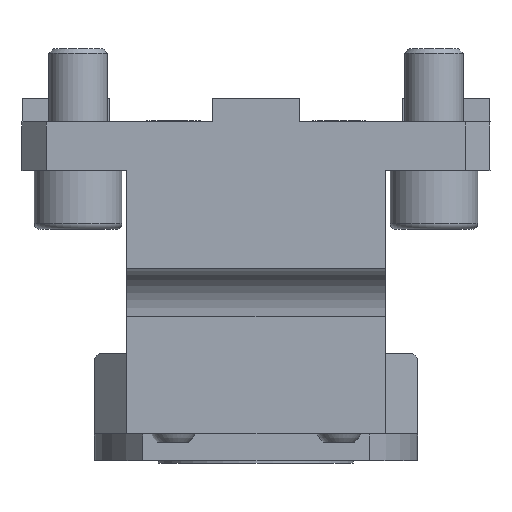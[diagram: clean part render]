
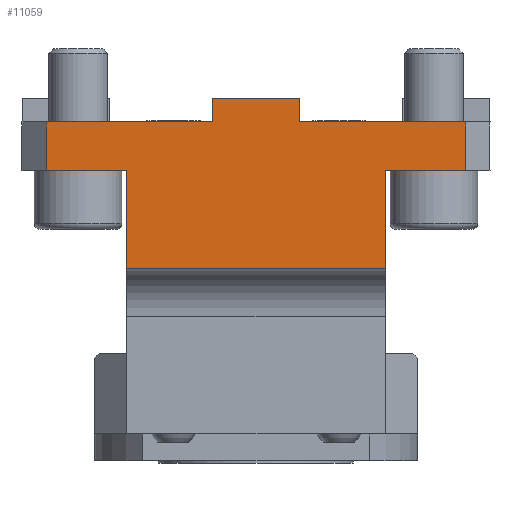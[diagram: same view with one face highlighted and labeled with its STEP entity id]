
A CAD part, left-side view. The second image highlights one B-rep face of the part: STEP entity #11059.
In plain terms, the highlighted planar face has unit normal (-1, 0, 0).
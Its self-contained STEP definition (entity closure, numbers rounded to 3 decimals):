
#5409=ORIENTED_EDGE('',*,*,#7228,.T.);
#5410=ORIENTED_EDGE('',*,*,#7229,.F.);
#5411=ORIENTED_EDGE('',*,*,#7230,.F.);
#5412=ORIENTED_EDGE('',*,*,#7231,.T.);
#5413=ORIENTED_EDGE('',*,*,#7232,.F.);
#5414=ORIENTED_EDGE('',*,*,#7233,.F.);
#5415=ORIENTED_EDGE('',*,*,#7130,.F.);
#5416=ORIENTED_EDGE('',*,*,#7136,.T.);
#5417=ORIENTED_EDGE('',*,*,#7141,.F.);
#5418=ORIENTED_EDGE('',*,*,#7223,.F.);
#5419=ORIENTED_EDGE('',*,*,#7234,.T.);
#5420=ORIENTED_EDGE('',*,*,#7081,.T.);
#6117=VECTOR('',#8142,1.);
#6149=VECTOR('',#8220,1.);
#6154=VECTOR('',#8229,1.);
#6159=VECTOR('',#8236,1.);
#6202=VECTOR('',#8431,1.);
#6205=VECTOR('',#8440,1.);
#6206=VECTOR('',#8441,1.);
#6207=VECTOR('',#8442,1.);
#6208=VECTOR('',#8443,1.);
#6209=VECTOR('',#8444,1.);
#6210=VECTOR('',#8445,1.);
#6211=VECTOR('',#8446,1.);
#6432=LINE('',#9230,#6117);
#6464=LINE('',#9328,#6149);
#6469=LINE('',#9339,#6154);
#6474=LINE('',#9348,#6159);
#6517=LINE('',#9679,#6202);
#6520=LINE('',#9688,#6205);
#6521=LINE('',#9690,#6206);
#6522=LINE('',#9692,#6207);
#6523=LINE('',#9694,#6208);
#6524=LINE('',#9696,#6209);
#6525=LINE('',#9697,#6210);
#6526=LINE('',#9698,#6211);
#6743=VERTEX_POINT('',#9227);
#6744=VERTEX_POINT('',#9229);
#6785=VERTEX_POINT('',#9324);
#6787=VERTEX_POINT('',#9327);
#6791=VERTEX_POINT('',#9337);
#6794=VERTEX_POINT('',#9346);
#6851=VERTEX_POINT('',#9678);
#6854=VERTEX_POINT('',#9687);
#6855=VERTEX_POINT('',#9689);
#6856=VERTEX_POINT('',#9691);
#6857=VERTEX_POINT('',#9693);
#6858=VERTEX_POINT('',#9695);
#7081=EDGE_CURVE('',#6744,#6743,#6432,.T.);
#7130=EDGE_CURVE('',#6785,#6787,#6464,.T.);
#7136=EDGE_CURVE('',#6785,#6791,#6469,.T.);
#7141=EDGE_CURVE('',#6794,#6791,#6474,.T.);
#7223=EDGE_CURVE('',#6851,#6794,#6517,.T.);
#7228=EDGE_CURVE('',#6743,#6854,#6520,.T.);
#7229=EDGE_CURVE('',#6855,#6854,#6521,.T.);
#7230=EDGE_CURVE('',#6856,#6855,#6522,.T.);
#7231=EDGE_CURVE('',#6856,#6857,#6523,.T.);
#7232=EDGE_CURVE('',#6858,#6857,#6524,.T.);
#7233=EDGE_CURVE('',#6787,#6858,#6525,.T.);
#7234=EDGE_CURVE('',#6851,#6744,#6526,.T.);
#7621=EDGE_LOOP('',(#5409,#5410,#5411,#5412,#5413,#5414,#5415,#5416,#5417,
#5418,#5419,#5420));
#7900=FACE_BOUND('',#7621,.T.);
#8142=DIRECTION('',(0.,34.,0.));
#8220=DIRECTION('',(0.,0.,20.));
#8229=DIRECTION('',(0.,-53.,0.));
#8236=DIRECTION('',(0.,0.,-20.));
#8431=DIRECTION('',(0.,16.5,0.));
#8438=DIRECTION('',(-1.,0.,0.));
#8439=DIRECTION('',(0.,1.,0.));
#8440=DIRECTION('',(0.,0.,4.75));
#8441=DIRECTION('',(0.,-18.,0.));
#8442=DIRECTION('',(0.,0.,4.75));
#8443=DIRECTION('',(0.,34.,0.));
#8444=DIRECTION('',(0.,0.,10.));
#8445=DIRECTION('',(0.,16.5,0.));
#8446=DIRECTION('',(0.,0.,10.));
#9227=CARTESIAN_POINT('',(-48.,-9.,11.));
#9229=CARTESIAN_POINT('',(-48.,-43.,11.));
#9230=CARTESIAN_POINT('',(-48.,-43.,11.));
#9324=CARTESIAN_POINT('',(-48.,26.5,-19.));
#9327=CARTESIAN_POINT('',(-48.,26.5,1.));
#9328=CARTESIAN_POINT('',(-48.,26.5,-19.));
#9337=CARTESIAN_POINT('',(-48.,-26.5,-19.));
#9339=CARTESIAN_POINT('',(-48.,26.5,-19.));
#9346=CARTESIAN_POINT('',(-48.,-26.5,1.));
#9348=CARTESIAN_POINT('',(-48.,-26.5,1.));
#9678=CARTESIAN_POINT('',(-48.,-43.,1.));
#9679=CARTESIAN_POINT('',(-48.,-43.,1.));
#9686=CARTESIAN_POINT('',(-48.,-9.,6.));
#9687=CARTESIAN_POINT('',(-48.,-9.,15.75));
#9688=CARTESIAN_POINT('',(-48.,-9.,11.));
#9689=CARTESIAN_POINT('',(-48.,9.,15.75));
#9690=CARTESIAN_POINT('',(-48.,9.,15.75));
#9691=CARTESIAN_POINT('',(-48.,9.,11.));
#9692=CARTESIAN_POINT('',(-48.,9.,11.));
#9693=CARTESIAN_POINT('',(-48.,43.,11.));
#9694=CARTESIAN_POINT('',(-48.,9.,11.));
#9695=CARTESIAN_POINT('',(-48.,43.,1.));
#9696=CARTESIAN_POINT('',(-48.,43.,1.));
#9697=CARTESIAN_POINT('',(-48.,26.5,1.));
#9698=CARTESIAN_POINT('',(-48.,-43.,1.));
#10579=AXIS2_PLACEMENT_3D('',#9686,#8438,#8439);
#10884=PLANE('',#10579);
#11059=ADVANCED_FACE('',(#7900),#10884,.T.);
